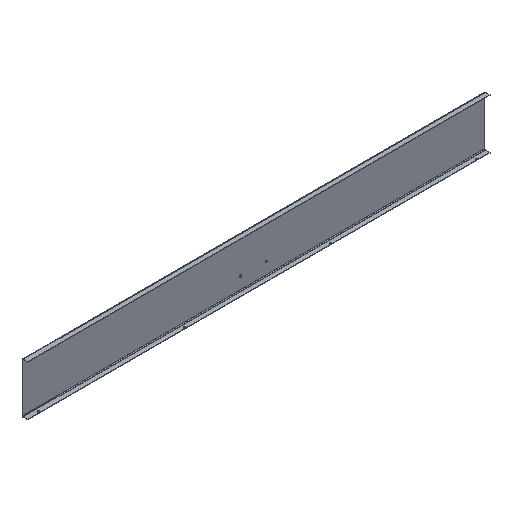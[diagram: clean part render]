
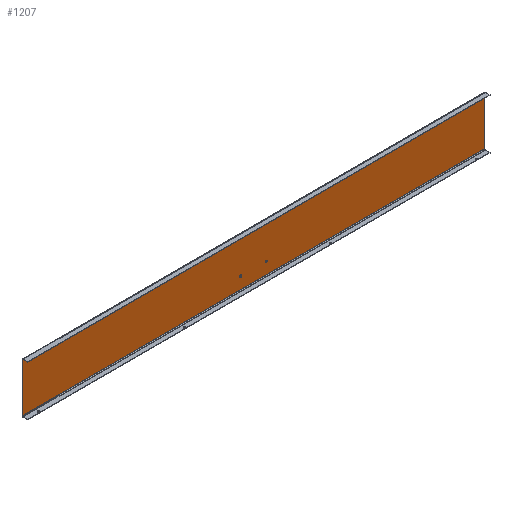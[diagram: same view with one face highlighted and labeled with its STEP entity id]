
A CAD part, isometric view. The second image highlights one B-rep face of the part: STEP entity #1207.
In plain terms, the highlighted planar face has unit normal (0, -1, 0).
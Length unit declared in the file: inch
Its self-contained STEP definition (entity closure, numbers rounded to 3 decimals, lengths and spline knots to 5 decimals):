
#35 = DIRECTION ( 'NONE',  ( 0., 0., 1. ) ) ;
#40 = DIRECTION ( 'NONE',  ( 0., 1., 0. ) ) ;
#41 = CARTESIAN_POINT ( 'NONE',  ( 2., -0.072, -1.97 ) ) ;
#93 = DIRECTION ( 'NONE',  ( -1., 0., 0. ) ) ;
#96 = DIRECTION ( 'NONE',  ( 0., 0., 1. ) ) ;
#97 = DIRECTION ( 'NONE',  ( 0., 1., 0. ) ) ;
#98 = DIRECTION ( 'NONE',  ( -1., 0., 0. ) ) ;
#100 = CARTESIAN_POINT ( 'NONE',  ( 36.175, -0.072, -3.788 ) ) ;
#103 = CARTESIAN_POINT ( 'NONE',  ( -2., -0.072, -1.97 ) ) ;
#106 = CARTESIAN_POINT ( 'NONE',  ( 36.175, -0.072, 3.788 ) ) ;
#114 = VERTEX_POINT ( 'NONE', #124 ) ;
#124 = CARTESIAN_POINT ( 'NONE',  ( -36.175, -0.072, -3.788 ) ) ;
#320 = EDGE_CURVE ( 'NONE', #1429, #1428, #725, .T. ) ;
#337 = EDGE_CURVE ( 'NONE', #1454, #114, #696, .T. ) ;
#338 = EDGE_CURVE ( 'NONE', #1439, #1438, #692, .T. ) ;
#339 = EDGE_CURVE ( 'NONE', #1447, #1467, #693, .T. ) ;
#370 = AXIS2_PLACEMENT_3D ( 'NONE', #1790, #1808, #1789 ) ;
#621 = FACE_BOUND ( 'NONE', #1925, .T. ) ;
#629 = FACE_BOUND ( 'NONE', #1929, .T. ) ;
#631 = FACE_OUTER_BOUND ( 'NONE', #1930, .T. ) ;
#657 = CIRCLE ( 'NONE', #855, 0.125 ) ;
#661 = CIRCLE ( 'NONE', #370, 0.125 ) ;
#692 = CIRCLE ( 'NONE', #1549, 0.125 ) ;
#693 = LINE ( 'NONE', #106, #701 ) ;
#695 = VECTOR ( 'NONE', #98, 39.37008 ) ;
#696 = LINE ( 'NONE', #100, #695 ) ;
#701 = VECTOR ( 'NONE', #93, 39.37008 ) ;
#725 = CIRCLE ( 'NONE', #1556, 0.125 ) ;
#754 = AXIS2_PLACEMENT_3D ( 'NONE', #1725, #1722, #1720 ) ;
#855 = AXIS2_PLACEMENT_3D ( 'NONE', #1838, #1809, #1873 ) ;
#913 = ORIENTED_EDGE ( 'NONE', *, *, #339, .T. ) ;
#914 = ORIENTED_EDGE ( 'NONE', *, *, #337, .F. ) ;
#916 = ORIENTED_EDGE ( 'NONE', *, *, #338, .T. ) ;
#917 = ORIENTED_EDGE ( 'NONE', *, *, #1495, .T. ) ;
#918 = ORIENTED_EDGE ( 'NONE', *, *, #1590, .T. ) ;
#919 = ORIENTED_EDGE ( 'NONE', *, *, #1492, .T. ) ;
#920 = ORIENTED_EDGE ( 'NONE', *, *, #1574, .F. ) ;
#924 = ORIENTED_EDGE ( 'NONE', *, *, #320, .T. ) ;
#945 = LINE ( 'NONE', #1286, #963 ) ;
#948 = LINE ( 'NONE', #1224, #949 ) ;
#949 = VECTOR ( 'NONE', #1223, 39.37008 ) ;
#963 = VECTOR ( 'NONE', #1285, 39.37008 ) ;
#1207 = ADVANCED_FACE ( 'NONE', ( #621, #629, #631 ), #1724, .F. ) ;
#1223 = DIRECTION ( 'NONE',  ( 0., 0., -1. ) ) ;
#1224 = CARTESIAN_POINT ( 'NONE',  ( 36.175, -0.072, 3.94 ) ) ;
#1285 = DIRECTION ( 'NONE',  ( 0., 0., -1. ) ) ;
#1286 = CARTESIAN_POINT ( 'NONE',  ( -36.175, -0.072, 3.94 ) ) ;
#1428 = VERTEX_POINT ( 'NONE', #1639 ) ;
#1429 = VERTEX_POINT ( 'NONE', #1638 ) ;
#1438 = VERTEX_POINT ( 'NONE', #1622 ) ;
#1439 = VERTEX_POINT ( 'NONE', #1621 ) ;
#1447 = VERTEX_POINT ( 'NONE', #1868 ) ;
#1454 = VERTEX_POINT ( 'NONE', #1803 ) ;
#1467 = VERTEX_POINT ( 'NONE', #1831 ) ;
#1492 = EDGE_CURVE ( 'NONE', #1438, #1439, #657, .T. ) ;
#1495 = EDGE_CURVE ( 'NONE', #1428, #1429, #661, .T. ) ;
#1549 = AXIS2_PLACEMENT_3D ( 'NONE', #103, #97, #96 ) ;
#1556 = AXIS2_PLACEMENT_3D ( 'NONE', #41, #40, #35 ) ;
#1574 = EDGE_CURVE ( 'NONE', #1447, #1454, #948, .T. ) ;
#1590 = EDGE_CURVE ( 'NONE', #1467, #114, #945, .T. ) ;
#1621 = CARTESIAN_POINT ( 'NONE',  ( -2., -0.072, -1.845 ) ) ;
#1622 = CARTESIAN_POINT ( 'NONE',  ( -2., -0.072, -2.095 ) ) ;
#1638 = CARTESIAN_POINT ( 'NONE',  ( 2., -0.072, -1.845 ) ) ;
#1639 = CARTESIAN_POINT ( 'NONE',  ( 2., -0.072, -2.095 ) ) ;
#1720 = DIRECTION ( 'NONE',  ( 0., 0., 1. ) ) ;
#1722 = DIRECTION ( 'NONE',  ( 0., 1., 0. ) ) ;
#1724 = PLANE ( 'NONE',  #754 ) ;
#1725 = CARTESIAN_POINT ( 'NONE',  ( 36.175, -0.072, 3.94 ) ) ;
#1789 = DIRECTION ( 'NONE',  ( 0., 0., 1. ) ) ;
#1790 = CARTESIAN_POINT ( 'NONE',  ( 2., -0.072, -1.97 ) ) ;
#1803 = CARTESIAN_POINT ( 'NONE',  ( 36.175, -0.072, -3.788 ) ) ;
#1808 = DIRECTION ( 'NONE',  ( 0., 1., 0. ) ) ;
#1809 = DIRECTION ( 'NONE',  ( 0., 1., 0. ) ) ;
#1831 = CARTESIAN_POINT ( 'NONE',  ( -36.175, -0.072, 3.788 ) ) ;
#1838 = CARTESIAN_POINT ( 'NONE',  ( -2., -0.072, -1.97 ) ) ;
#1868 = CARTESIAN_POINT ( 'NONE',  ( 36.175, -0.072, 3.788 ) ) ;
#1873 = DIRECTION ( 'NONE',  ( 0., 0., 1. ) ) ;
#1925 = EDGE_LOOP ( 'NONE', ( #924, #917 ) ) ;
#1929 = EDGE_LOOP ( 'NONE', ( #916, #919 ) ) ;
#1930 = EDGE_LOOP ( 'NONE', ( #918, #914, #920, #913 ) ) ;
